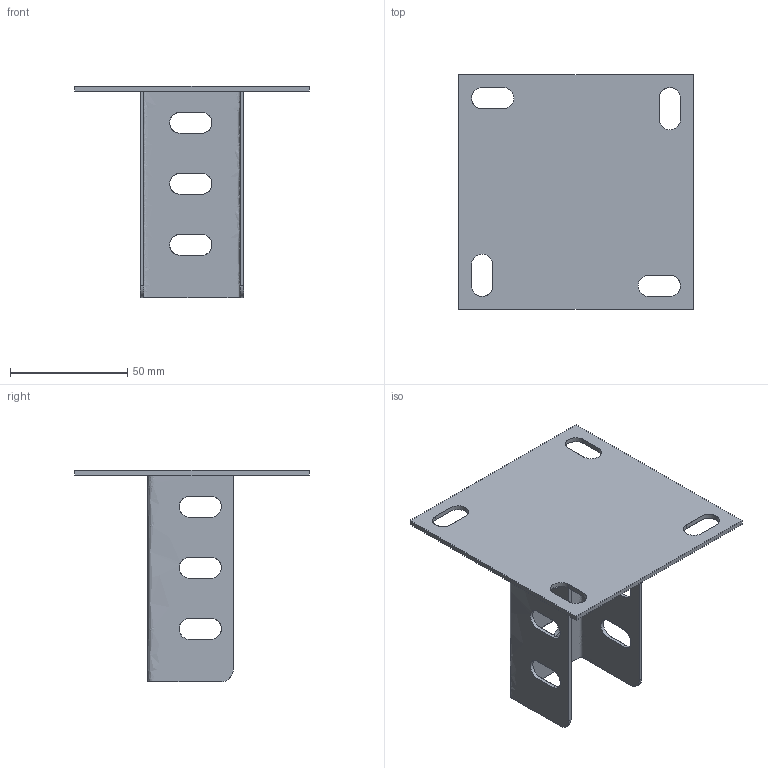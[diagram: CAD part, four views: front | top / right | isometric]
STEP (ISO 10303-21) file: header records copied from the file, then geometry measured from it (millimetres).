
FILE_DESCRIPTION(/* description */ (''),/* implementation_level */ '2;1');
FILE_NAME(/* name */ 'DZMSTP',/* time_stamp */ '2012-11-29T22:49:49+01:00',/* author */ (''),/* organization */ (''),/* preprocessor_version */ 'ST-DEVELOPER v10',/* originating_system */ '',/* authorisation */ '');
FILE_SCHEMA (('AUTOMOTIVE_DESIGN_CC2'));
Length unit declared in the file: millimetre
Products named in the file (1): 1
Bounding box: 100 x 100 x 90 mm (x, y, z)
Surface area: 39465.8 mm2 (no closed solid volume)
Topology: 0 solids, 28 shells, 41 faces, 170 edges, 144 vertices
Faces by surface type: bspline 31, plane 10
Entity records: 2867 total; most frequent: CARTESIAN_POINT 1784, ORIENTED_EDGE 196, EDGE_CURVE 170, VERTEX_POINT 144, EDGE_LOOP 67, B_SPLINE_CURVE_WITH_KNOTS 64, ADVANCED_FACE 41, FACE_OUTER_BOUND 41
